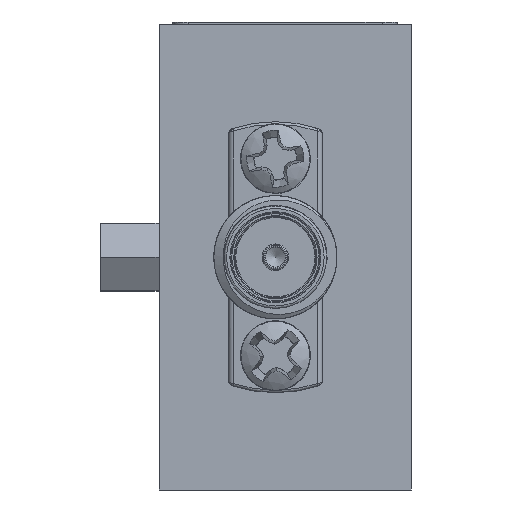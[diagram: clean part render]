
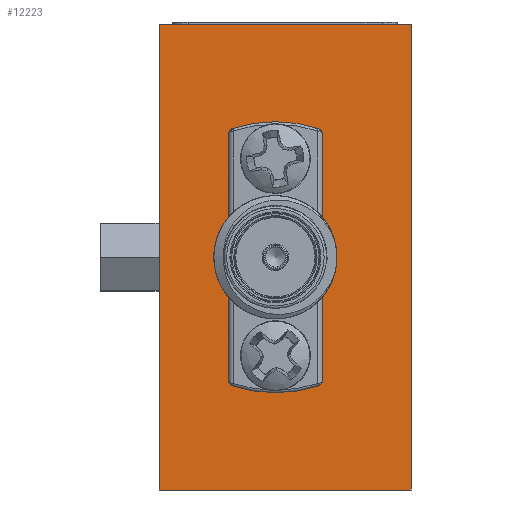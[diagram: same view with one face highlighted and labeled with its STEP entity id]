
A CAD part, left-side view. The second image highlights one B-rep face of the part: STEP entity #12223.
In plain terms, the highlighted planar face has unit normal (-1, 0, 0).
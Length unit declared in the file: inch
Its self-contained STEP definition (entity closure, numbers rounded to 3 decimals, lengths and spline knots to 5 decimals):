
#391 = CIRCLE ( 'NONE', #33912, 0.043 ) ;
#1124 = EDGE_CURVE ( 'NONE', #5105, #13921, #26241, .T. ) ;
#1474 = ORIENTED_EDGE ( 'NONE', *, *, #30005, .T. ) ;
#2379 = VECTOR ( 'NONE', #37390, 39.37008 ) ;
#2569 = CARTESIAN_POINT ( 'NONE',  ( 0., 0., 0. ) ) ;
#2947 = CARTESIAN_POINT ( 'NONE',  ( 0., 0., -0.94488 ) ) ;
#3809 = EDGE_CURVE ( 'NONE', #5105, #10212, #37008, .T. ) ;
#5105 = VERTEX_POINT ( 'NONE', #29222 ) ;
#8323 = ORIENTED_EDGE ( 'NONE', *, *, #1124, .T. ) ;
#8376 = FACE_BOUND ( 'NONE', #26547, .T. ) ;
#9221 = AXIS2_PLACEMENT_3D ( 'NONE', #28405, #25517, #36708 ) ;
#9240 = CARTESIAN_POINT ( 'NONE',  ( 0., 0., 0. ) ) ;
#9335 = VECTOR ( 'NONE', #24297, 39.37008 ) ;
#9842 = ORIENTED_EDGE ( 'NONE', *, *, #16225, .F. ) ;
#10212 = VERTEX_POINT ( 'NONE', #23358 ) ;
#12223 = ADVANCED_FACE ( 'NONE', ( #8376, #16554, #34149 ), #16738, .F. ) ;
#13367 = DIRECTION ( 'NONE',  ( -1., 0., 0. ) ) ;
#13624 = EDGE_CURVE ( 'NONE', #10212, #26070, #17827, .T. ) ;
#13921 = VERTEX_POINT ( 'NONE', #2947 ) ;
#14163 = VECTOR ( 'NONE', #29511, 39.37008 ) ;
#14202 = CARTESIAN_POINT ( 'NONE',  ( 0., 0.51181, 0. ) ) ;
#15329 = ORIENTED_EDGE ( 'NONE', *, *, #13624, .F. ) ;
#15679 = DIRECTION ( 'NONE',  ( 0., 0., 1. ) ) ;
#15742 = CARTESIAN_POINT ( 'NONE',  ( 0., 0.27559, -0.27244 ) ) ;
#16225 = EDGE_CURVE ( 'NONE', #37671, #37671, #391, .T. ) ;
#16554 = FACE_BOUND ( 'NONE', #24202, .T. ) ;
#16738 = PLANE ( 'NONE',  #9221 ) ;
#16822 = EDGE_LOOP ( 'NONE', ( #1474, #15329, #18221, #8323 ) ) ;
#17174 = AXIS2_PLACEMENT_3D ( 'NONE', #21602, #13367, #15679 ) ;
#17827 = LINE ( 'NONE', #26602, #14163 ) ;
#17836 = CARTESIAN_POINT ( 'NONE',  ( 0., 0.51181, -0.94488 ) ) ;
#18221 = ORIENTED_EDGE ( 'NONE', *, *, #3809, .F. ) ;
#18971 = EDGE_CURVE ( 'NONE', #36131, #36131, #34266, .T. ) ;
#21602 = CARTESIAN_POINT ( 'NONE',  ( 0., 0.27559, -0.67244 ) ) ;
#23358 = CARTESIAN_POINT ( 'NONE',  ( 0., 0.51181, 0. ) ) ;
#24202 = EDGE_LOOP ( 'NONE', ( #9842 ) ) ;
#24230 = CARTESIAN_POINT ( 'NONE',  ( 0., 0.27559, -0.62944 ) ) ;
#24297 = DIRECTION ( 'NONE',  ( 0., 0., 1. ) ) ;
#25517 = DIRECTION ( 'NONE',  ( 1., 0., 0. ) ) ;
#26070 = VERTEX_POINT ( 'NONE', #2569 ) ;
#26241 = LINE ( 'NONE', #17836, #33241 ) ;
#26427 = DIRECTION ( 'NONE',  ( 0., -1., 0. ) ) ;
#26547 = EDGE_LOOP ( 'NONE', ( #33026 ) ) ;
#26588 = LINE ( 'NONE', #9240, #9335 ) ;
#26602 = CARTESIAN_POINT ( 'NONE',  ( 0., 0.51181, 0. ) ) ;
#27408 = DIRECTION ( 'NONE',  ( 0., 0., 1. ) ) ;
#28405 = CARTESIAN_POINT ( 'NONE',  ( 0., 0.51181, 0. ) ) ;
#29222 = CARTESIAN_POINT ( 'NONE',  ( 0., 0.51181, -0.94488 ) ) ;
#29511 = DIRECTION ( 'NONE',  ( 0., -1., 0. ) ) ;
#30005 = EDGE_CURVE ( 'NONE', #13921, #26070, #26588, .T. ) ;
#30121 = DIRECTION ( 'NONE',  ( -1., 0., 0. ) ) ;
#33026 = ORIENTED_EDGE ( 'NONE', *, *, #18971, .F. ) ;
#33241 = VECTOR ( 'NONE', #26427, 39.37008 ) ;
#33912 = AXIS2_PLACEMENT_3D ( 'NONE', #15742, #30121, #27408 ) ;
#34149 = FACE_OUTER_BOUND ( 'NONE', #16822, .T. ) ;
#34266 = CIRCLE ( 'NONE', #17174, 0.043 ) ;
#34563 = CARTESIAN_POINT ( 'NONE',  ( 0., 0.27559, -0.22944 ) ) ;
#36131 = VERTEX_POINT ( 'NONE', #24230 ) ;
#36708 = DIRECTION ( 'NONE',  ( 0., 0., -1. ) ) ;
#37008 = LINE ( 'NONE', #14202, #2379 ) ;
#37390 = DIRECTION ( 'NONE',  ( 0., 0., 1. ) ) ;
#37671 = VERTEX_POINT ( 'NONE', #34563 ) ;
